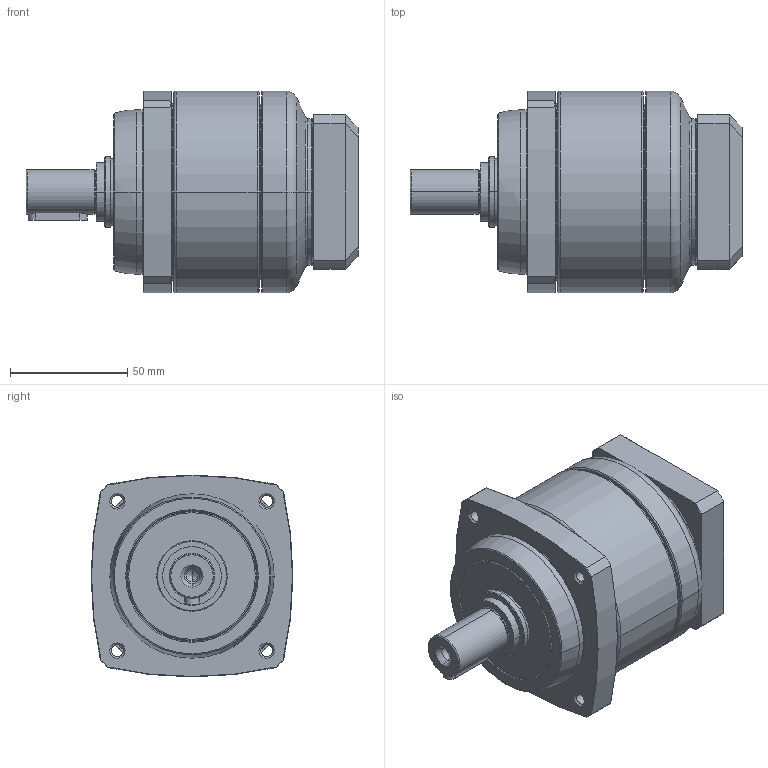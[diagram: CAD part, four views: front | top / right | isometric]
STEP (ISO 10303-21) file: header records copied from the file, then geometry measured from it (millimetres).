
FILE_DESCRIPTION((''),'2;1');
FILE_NAME('PS2-C_1ST_14-P0411300101_ASM','2016-05-19T',('d01943'),(''),'PRO/ENGINEER BY PARAMETRIC TECHNOLOGY CORPORATION, 2008410','PRO/ENGINEER BY PARAMETRIC TECHNOLOGY CORPORATION, 2008410','');
FILE_SCHEMA(('CONFIG_CONTROL_DESIGN'));
Length unit declared in the file: millimetre
Products named in the file (9): P1328310001; P0250300001; P1324300001; P0350301401; P0941300001; P0503300005; P0411300101; P1702300001; PS2-C_1ST_14-P0411300101_ASM
Assembly tree (8 placements, depth 2):
  PS2-C_1ST_14-P0411300101_ASM
    P1328310001
    P0250300001
    P1324300001
    P0350301401
    P0941300001
    P0503300005
    P0411300101
    P1702300001
Bounding box: 141.5 x 86 x 86 mm (x, y, z)
Volume: 435779.8 mm3; surface area: 107721.4 mm2
Topology: 8 solids, 8 shells, 478 faces, 1047 edges, 608 vertices
Faces by surface type: cone 152, cylinder 141, torus 88, plane 79, bspline 18
Entity records: 17685 total; most frequent: CARTESIAN_POINT 6893, DIRECTION 2456, ORIENTED_EDGE 2054, AXIS2_PLACEMENT_3D 1059, EDGE_CURVE 1027, VERTEX_POINT 608, CIRCLE 582, EDGE_LOOP 545
